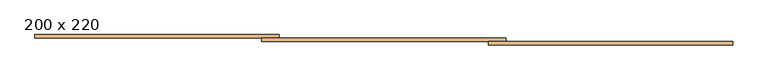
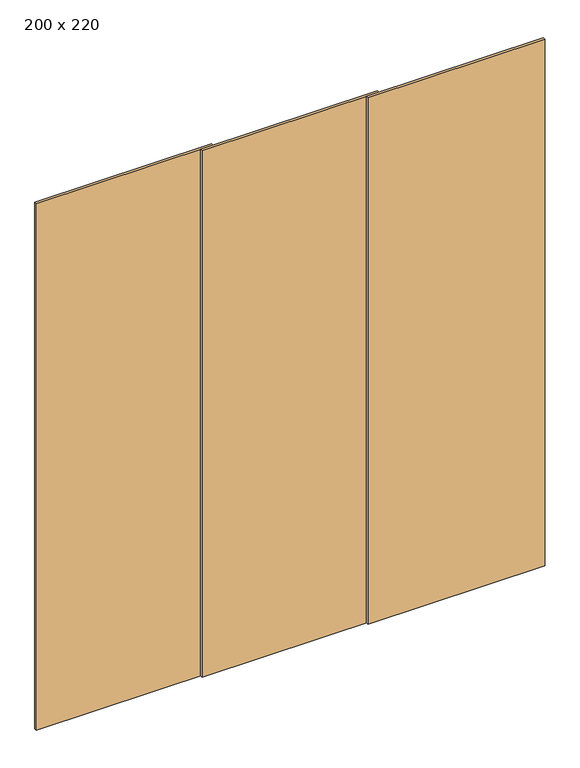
"""IFC4 building model written with IfcOpenShell, lengths in millimetres: door geometry, PORTA DE VIDRO DE CORRER - 3 FOLHAS : 200 x 220."""

from ifc_helpers import new_model, si_unit, origin, origin_with_axes, place, context, project, spatial, polyline, outline, extrude, source, transform, mapped, element, save


def door_200_x_220_3ca59432(model_context):
    return source(origin(), model_context, "Body", "SweptSolid", [
        extrude(outline(polyline([(1100.0, -59.3424922), (1100.0, -69.3424922), (400.0, -69.3424922), (400.0, -59.3424922), (1100.0, -59.3424922)])), origin_with_axes(), (0.0, 0.0, 1.0), 2200.0),
        extrude(outline(polyline([(450.0, -49.3424922), (450.0, -59.3424922), (-250.0, -59.3424922), (-250.0, -49.3424922), (450.0, -49.3424922)])), origin_with_axes(), (0.0, 0.0, 1.0), 2200.0),
        extrude(outline(polyline([(-900.0, -39.3424922), (-200.0, -39.3424922), (-200.0, -49.3424922), (-900.0, -49.3424922), (-900.0, -39.3424922)])), origin_with_axes(), (0.0, 0.0, 1.0), 2200.0),
    ])


if __name__ == "__main__":
    model = new_model("IFC4")
    model_context = context("Model", 3, world=origin())
    ifc_project = project(units=[si_unit("LENGTHUNIT", "METRE", prefix="MILLI")], contexts=[model_context])
    site = spatial("IfcSite", under=ifc_project)
    building = spatial("IfcBuilding", under=site)
    placement = place(None, origin())
    door_200_x_220_shape = door_200_x_220_3ca59432(model_context)
    element("IfcDoor", 1, ObjectType="PORTA DE VIDRO DE CORRER - 3 FOLHAS : 200 x 220", at=placement, inside=building, context=model_context, shape_type="MappedRepresentation", body=[
        mapped(door_200_x_220_shape, transform((0.0, 0.0, 0.0), x_axis=(1.0, 0.0, 0.0), y_axis=(0.0, 1.0, 0.0), z_axis=(0.0, 0.0, 1.0))),
    ])
    save(model, "model.ifc")
